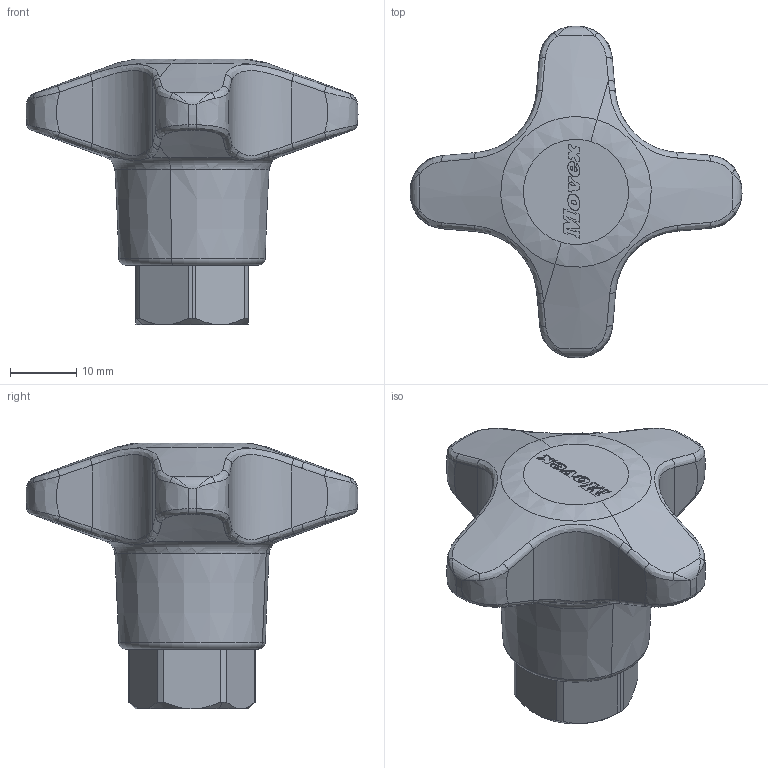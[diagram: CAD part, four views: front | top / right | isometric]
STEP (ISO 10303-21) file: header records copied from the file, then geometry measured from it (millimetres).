
FILE_DESCRIPTION(('CATIA V5 STEP Exchange'),'2;1');
FILE_NAME('\\server01\tecnico\CODICI MOVEX\3D per clienti\Daryna Itsenko\11-03-2014\P31701_01.stp','2014-03-11T08:58:28+00:00',('none'),('none'),'Version 5-6 Release 2012','CATIA V5 STEP AP203','none');
FILE_SCHEMA(('CONFIG_CONTROL_DESIGN'));
Length unit declared in the file: millimetre
Products named in the file (1): Volantino + Boccola
Assembly tree (2 placements, depth 2):
  Volantino + Boccola
    #57
    #21307
Bounding box: 49.99 x 49.99 x 40 mm (x, y, z)
Volume: 18950.8 mm3; surface area: 8588 mm2
Topology: 2 solids, 2 shells, 595 faces, 1659 edges, 1070 vertices
Faces by surface type: plane 459, bspline 68, cone 26, cylinder 22, torus 14, revolution 6
Entity records: 22350 total; most frequent: CARTESIAN_POINT 7973, ORIENTED_EDGE 3298, DIRECTION 2377, EDGE_CURVE 1649, VECTOR 1344, LINE 1344, VERTEX_POINT 1070, EDGE_LOOP 607
